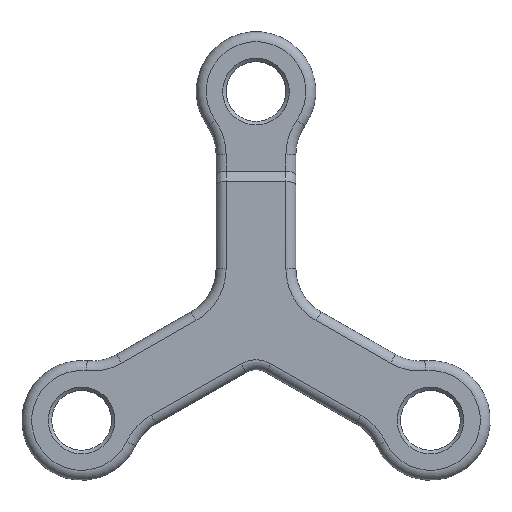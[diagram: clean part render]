
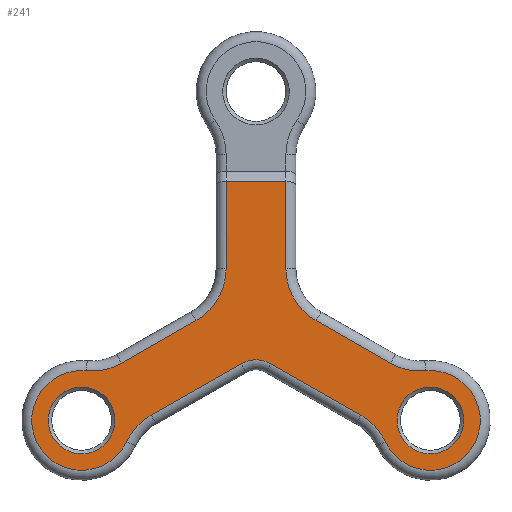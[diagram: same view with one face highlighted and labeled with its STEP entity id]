
A CAD part, front view. The second image highlights one B-rep face of the part: STEP entity #241.
In plain terms, the highlighted planar face has unit normal (0, -1, 0).
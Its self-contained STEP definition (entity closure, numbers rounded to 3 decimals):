
#145=PLANE('',#1539);
#177=FACE_BOUND('',#444,.T.);
#178=FACE_BOUND('',#445,.T.);
#179=FACE_BOUND('',#446,.T.);
#241=ADVANCED_FACE('',(#177,#178,#179),#145,.F.);
#444=EDGE_LOOP('',(#742));
#445=EDGE_LOOP('',(#743));
#446=EDGE_LOOP('',(#744,#745,#746,#747,#748,#749,#750,#751,#752,#753,#754,
#755,#756,#757,#758,#759));
#557=CIRCLE('',#1528,3.35);
#558=CIRCLE('',#1529,3.35);
#559=CIRCLE('',#1530,6.);
#560=CIRCLE('',#1531,6.);
#561=CIRCLE('',#1532,6.);
#562=CIRCLE('',#1533,5.);
#563=CIRCLE('',#1534,6.);
#564=CIRCLE('',#1535,3.);
#565=CIRCLE('',#1536,6.);
#566=CIRCLE('',#1537,5.);
#567=CIRCLE('',#1538,6.);
#742=ORIENTED_EDGE('',*,*,#1224,.T.);
#743=ORIENTED_EDGE('',*,*,#1225,.T.);
#744=ORIENTED_EDGE('',*,*,#1226,.T.);
#745=ORIENTED_EDGE('',*,*,#1227,.T.);
#746=ORIENTED_EDGE('',*,*,#1228,.T.);
#747=ORIENTED_EDGE('',*,*,#1229,.T.);
#748=ORIENTED_EDGE('',*,*,#1230,.T.);
#749=ORIENTED_EDGE('',*,*,#1231,.T.);
#750=ORIENTED_EDGE('',*,*,#1232,.T.);
#751=ORIENTED_EDGE('',*,*,#1233,.T.);
#752=ORIENTED_EDGE('',*,*,#1234,.T.);
#753=ORIENTED_EDGE('',*,*,#1235,.T.);
#754=ORIENTED_EDGE('',*,*,#1236,.T.);
#755=ORIENTED_EDGE('',*,*,#1237,.T.);
#756=ORIENTED_EDGE('',*,*,#1238,.T.);
#757=ORIENTED_EDGE('',*,*,#1239,.T.);
#758=ORIENTED_EDGE('',*,*,#1240,.T.);
#759=ORIENTED_EDGE('',*,*,#1241,.T.);
#1080=VERTEX_POINT('',#2444);
#1081=VERTEX_POINT('',#2446);
#1082=VERTEX_POINT('',#2448);
#1083=VERTEX_POINT('',#2449);
#1084=VERTEX_POINT('',#2451);
#1085=VERTEX_POINT('',#2453);
#1086=VERTEX_POINT('',#2455);
#1087=VERTEX_POINT('',#2457);
#1088=VERTEX_POINT('',#2459);
#1089=VERTEX_POINT('',#2461);
#1090=VERTEX_POINT('',#2463);
#1091=VERTEX_POINT('',#2465);
#1092=VERTEX_POINT('',#2467);
#1093=VERTEX_POINT('',#2469);
#1094=VERTEX_POINT('',#2471);
#1095=VERTEX_POINT('',#2473);
#1096=VERTEX_POINT('',#2475);
#1097=VERTEX_POINT('',#2477);
#1224=EDGE_CURVE('',#1080,#1080,#557,.T.);
#1225=EDGE_CURVE('',#1081,#1081,#558,.T.);
#1226=EDGE_CURVE('',#1082,#1083,#559,.T.);
#1227=EDGE_CURVE('',#1083,#1084,#1375,.T.);
#1228=EDGE_CURVE('',#1084,#1085,#1376,.T.);
#1229=EDGE_CURVE('',#1085,#1086,#1377,.T.);
#1230=EDGE_CURVE('',#1086,#1087,#560,.T.);
#1231=EDGE_CURVE('',#1087,#1088,#1378,.T.);
#1232=EDGE_CURVE('',#1088,#1089,#561,.T.);
#1233=EDGE_CURVE('',#1089,#1090,#562,.T.);
#1234=EDGE_CURVE('',#1090,#1091,#563,.T.);
#1235=EDGE_CURVE('',#1091,#1092,#1379,.T.);
#1236=EDGE_CURVE('',#1092,#1093,#564,.T.);
#1237=EDGE_CURVE('',#1093,#1094,#1380,.T.);
#1238=EDGE_CURVE('',#1094,#1095,#565,.T.);
#1239=EDGE_CURVE('',#1095,#1096,#566,.T.);
#1240=EDGE_CURVE('',#1096,#1097,#567,.T.);
#1241=EDGE_CURVE('',#1097,#1082,#1381,.T.);
#1375=LINE('',#2450,#1443);
#1376=LINE('',#2452,#1444);
#1377=LINE('',#2454,#1445);
#1378=LINE('',#2458,#1446);
#1379=LINE('',#2466,#1447);
#1380=LINE('',#2470,#1448);
#1381=LINE('',#2478,#1449);
#1443=VECTOR('',#1848,1.);
#1444=VECTOR('',#1849,1.);
#1445=VECTOR('',#1850,1.);
#1446=VECTOR('',#1853,1.);
#1447=VECTOR('',#1860,1.);
#1448=VECTOR('',#1863,1.);
#1449=VECTOR('',#1870,1.);
#1528=AXIS2_PLACEMENT_3D('',#2443,#1842,#1843);
#1529=AXIS2_PLACEMENT_3D('',#2445,#1844,#1845);
#1530=AXIS2_PLACEMENT_3D('',#2447,#1846,#1847);
#1531=AXIS2_PLACEMENT_3D('',#2456,#1851,#1852);
#1532=AXIS2_PLACEMENT_3D('',#2460,#1854,#1855);
#1533=AXIS2_PLACEMENT_3D('',#2462,#1856,#1857);
#1534=AXIS2_PLACEMENT_3D('',#2464,#1858,#1859);
#1535=AXIS2_PLACEMENT_3D('',#2468,#1861,#1862);
#1536=AXIS2_PLACEMENT_3D('',#2472,#1864,#1865);
#1537=AXIS2_PLACEMENT_3D('',#2474,#1866,#1867);
#1538=AXIS2_PLACEMENT_3D('',#2476,#1868,#1869);
#1539=AXIS2_PLACEMENT_3D('',#2479,#1871,#1872);
#1842=DIRECTION('',(0.,1.,0.));
#1843=DIRECTION('',(0.,0.,1.));
#1844=DIRECTION('',(0.,1.,0.));
#1845=DIRECTION('',(0.,0.,1.));
#1846=DIRECTION('',(0.,1.,0.));
#1847=DIRECTION('',(0.,0.,1.));
#1848=DIRECTION('',(0.,0.,1.));
#1849=DIRECTION('',(-1.,0.,0.));
#1850=DIRECTION('',(0.,0.,-1.));
#1851=DIRECTION('',(0.,1.,0.));
#1852=DIRECTION('',(0.,0.,1.));
#1853=DIRECTION('',(-0.868,0.,-0.496));
#1854=DIRECTION('',(0.,1.,0.));
#1855=DIRECTION('',(0.,0.,1.));
#1856=DIRECTION('',(0.,-1.,0.));
#1857=DIRECTION('',(0.,0.,1.));
#1858=DIRECTION('',(0.,1.,0.));
#1859=DIRECTION('',(0.,0.,1.));
#1860=DIRECTION('',(0.868,0.,0.496));
#1861=DIRECTION('',(0.,1.,0.));
#1862=DIRECTION('',(0.,0.,1.));
#1863=DIRECTION('',(0.868,0.,-0.496));
#1864=DIRECTION('',(0.,1.,0.));
#1865=DIRECTION('',(0.,0.,1.));
#1866=DIRECTION('',(0.,-1.,0.));
#1867=DIRECTION('',(0.,0.,1.));
#1868=DIRECTION('',(0.,1.,0.));
#1869=DIRECTION('',(0.,0.,1.));
#1870=DIRECTION('',(-0.868,0.,0.496));
#1871=DIRECTION('',(0.,1.,0.));
#1872=DIRECTION('',(0.,0.,1.));
#2443=CARTESIAN_POINT('',(-17.5,0.,0.));
#2444=CARTESIAN_POINT('',(-17.5,0.,3.35));
#2445=CARTESIAN_POINT('',(17.5,0.,0.));
#2446=CARTESIAN_POINT('',(17.5,0.,3.35));
#2447=CARTESIAN_POINT('',(9.,0.,15.223));
#2448=CARTESIAN_POINT('',(6.023,0.,10.013));
#2449=CARTESIAN_POINT('',(3.,0.,15.223));
#2450=CARTESIAN_POINT('',(3.,0.,10.952));
#2451=CARTESIAN_POINT('',(3.,0.,24.));
#2452=CARTESIAN_POINT('',(6.,0.,24.));
#2453=CARTESIAN_POINT('',(-3.,0.,24.));
#2454=CARTESIAN_POINT('',(-3.,0.,10.952));
#2455=CARTESIAN_POINT('',(-3.,0.,15.223));
#2456=CARTESIAN_POINT('',(-9.,0.,15.223));
#2457=CARTESIAN_POINT('',(-6.023,0.,10.013));
#2458=CARTESIAN_POINT('',(11.341,0.,19.936));
#2459=CARTESIAN_POINT('',(-13.497,0.,5.743));
#2460=CARTESIAN_POINT('',(-16.474,0.,10.952));
#2461=CARTESIAN_POINT('',(-17.034,0.,4.978));
#2462=CARTESIAN_POINT('',(-17.5,0.,0.));
#2463=CARTESIAN_POINT('',(-12.974,0.,-2.126));
#2464=CARTESIAN_POINT('',(-7.543,0.,-4.676));
#2465=CARTESIAN_POINT('',(-10.52,0.,0.533));
#2466=CARTESIAN_POINT('',(14.317,0.,14.726));
#2467=CARTESIAN_POINT('',(-1.488,0.,5.694));
#2468=CARTESIAN_POINT('',(0.,0.,3.089));
#2469=CARTESIAN_POINT('',(1.488,0.,5.694));
#2470=CARTESIAN_POINT('',(10.52,0.,0.533));
#2471=CARTESIAN_POINT('',(10.52,0.,0.533));
#2472=CARTESIAN_POINT('',(7.543,0.,-4.676));
#2473=CARTESIAN_POINT('',(12.974,0.,-2.126));
#2474=CARTESIAN_POINT('',(17.5,0.,0.));
#2475=CARTESIAN_POINT('',(17.034,0.,4.978));
#2476=CARTESIAN_POINT('',(16.474,0.,10.952));
#2477=CARTESIAN_POINT('',(13.497,0.,5.743));
#2478=CARTESIAN_POINT('',(13.497,0.,5.743));
#2479=CARTESIAN_POINT('',(16.474,0.,10.952));
